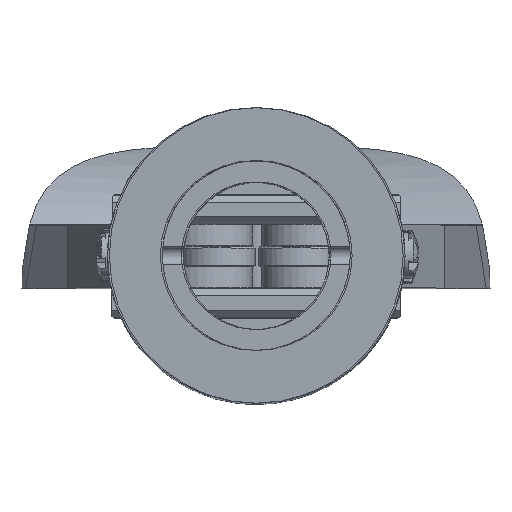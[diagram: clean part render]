
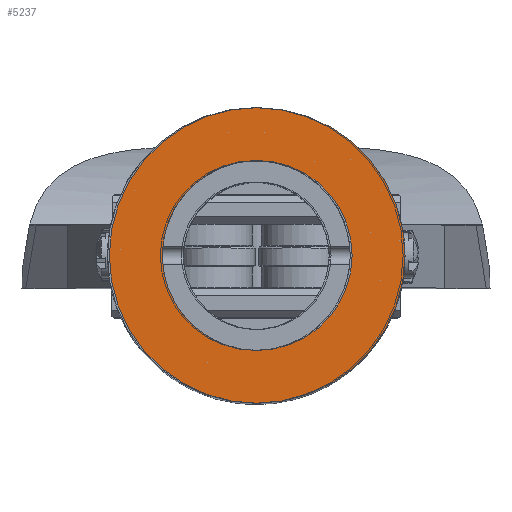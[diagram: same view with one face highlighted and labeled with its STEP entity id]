
A CAD part, top view. The second image highlights one B-rep face of the part: STEP entity #5237.
In plain terms, the highlighted planar face has unit normal (0, 0, 1) as drawn and (0, -1, 0) by its records, which use the part's own axes.
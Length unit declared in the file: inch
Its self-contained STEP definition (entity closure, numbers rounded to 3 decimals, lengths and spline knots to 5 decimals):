
#350 = CIRCLE ( 'NONE', #4901, 0.875 ) ;
#715 = AXIS2_PLACEMENT_3D ( 'NONE', #3921, #3677, #3600 ) ;
#1406 = AXIS2_PLACEMENT_3D ( 'NONE', #8071, #8135, #8814 ) ;
#1703 = DIRECTION ( 'NONE',  ( 0., 0., -1. ) ) ;
#1874 = ORIENTED_EDGE ( 'NONE', *, *, #2412, .F. ) ;
#2250 = CARTESIAN_POINT ( 'NONE',  ( 0., -0.00001, -0.875 ) ) ;
#2358 = DIRECTION ( 'NONE',  ( 0., -1., 0. ) ) ;
#2361 = VERTEX_POINT ( 'NONE', #7653 ) ;
#2412 = EDGE_CURVE ( 'NONE', #2361, #2361, #9455, .T. ) ;
#2525 = CARTESIAN_POINT ( 'NONE',  ( 0., -0.00001, 0. ) ) ;
#2804 = ORIENTED_EDGE ( 'NONE', *, *, #4021, .T. ) ;
#3238 = VERTEX_POINT ( 'NONE', #2250 ) ;
#3600 = DIRECTION ( 'NONE',  ( 0., 0., -1. ) ) ;
#3677 = DIRECTION ( 'NONE',  ( 0., -1., 0. ) ) ;
#3921 = CARTESIAN_POINT ( 'NONE',  ( 0.875, -0.00001, 0. ) ) ;
#4021 = EDGE_CURVE ( 'NONE', #3238, #3238, #350, .T. ) ;
#4254 = PLANE ( 'NONE',  #715 ) ;
#4901 = AXIS2_PLACEMENT_3D ( 'NONE', #2525, #2358, #1703 ) ;
#5237 = ADVANCED_FACE ( 'NONE', ( #9174, #6723 ), #4254, .T. ) ;
#6723 = FACE_BOUND ( 'NONE', #8974, .T. ) ;
#6900 = EDGE_LOOP ( 'NONE', ( #2804 ) ) ;
#7653 = CARTESIAN_POINT ( 'NONE',  ( 0., -0.00001, -0.562 ) ) ;
#8071 = CARTESIAN_POINT ( 'NONE',  ( 0., -0.00001, 0. ) ) ;
#8135 = DIRECTION ( 'NONE',  ( 0., -1., 0. ) ) ;
#8814 = DIRECTION ( 'NONE',  ( 0., 0., -1. ) ) ;
#8974 = EDGE_LOOP ( 'NONE', ( #1874 ) ) ;
#9174 = FACE_OUTER_BOUND ( 'NONE', #6900, .T. ) ;
#9455 = CIRCLE ( 'NONE', #1406, 0.562 ) ;
